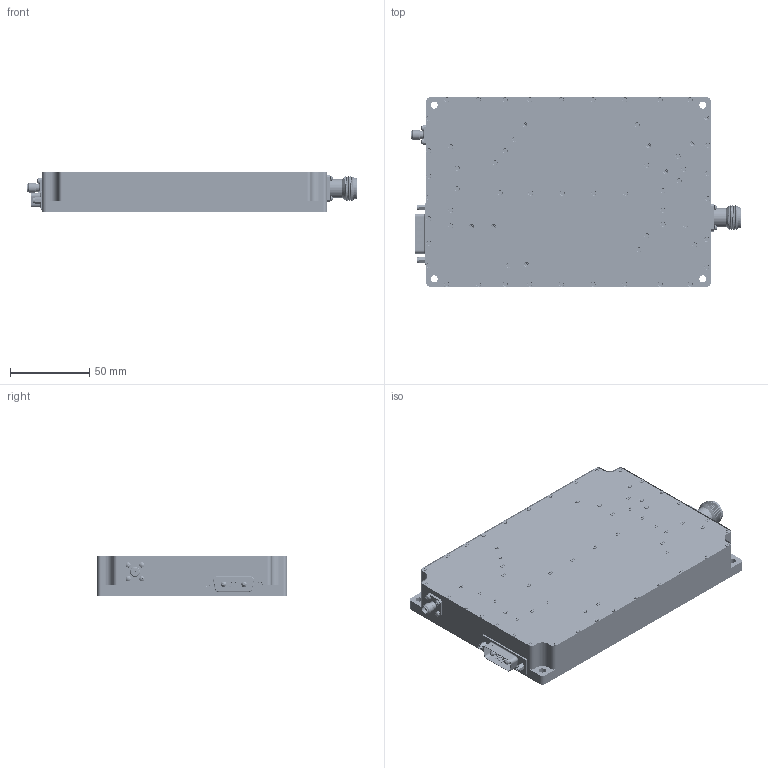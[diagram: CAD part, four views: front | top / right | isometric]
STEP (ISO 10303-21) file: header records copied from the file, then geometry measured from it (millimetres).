
FILE_DESCRIPTION (( 'STEP AP203' ), '1' );
FILE_NAME ('PA2060-100.STEP', '2026-09-10T12:18:22', ( 'Windows User' ), ( 'P R C' ), 'SwSTEP 2.0', 'SolidWorks 2013', '' );
FILE_SCHEMA (( 'CONFIG_CONTROL_DESIGN' ));
Length unit declared in the file: millimetre
Products named in the file (10): 2060-100_X2_4e3b4f53_X0__1; 郪磁蹟隊M2X8; SMA-_X2_5fae5e26_X0_4mm_X2_4ecb8d287a7f5899_X0__1; N-KFD_1; PA2060-100; 2060-100_X2_76d6677f_X0__1; 2060-100_X2_5e95677f_X0__1; m2蹟翐; 麥芛蹟隊M1.6X4; D-Sub Connector  5+2 Combo Plug Male Pins_1
Assembly tree (121 placements, depth 2):
  PA2060-100
    2060-100_X2_4e3b4f53_X0__1
    D-Sub Connector  5+2 Combo Plug Male Pins_1
    N-KFD_1
    SMA-_X2_5fae5e26_X0_4mm_X2_4ecb8d287a7f5899_X0__1
    2060-100_X2_5e95677f_X0__1
    2060-100_X2_76d6677f_X0__1
    郪磁蹟隊M2X8  x8
    麥芛蹟隊M1.6X4  x105
    m2蹟翐  x2
Bounding box: 208.38 x 120 x 25 mm (x, y, z)
Volume: 237589.9 mm3; surface area: 170389 mm2
Topology: 158 solids, 160 shells, 8400 faces, 22630 edges, 14573 vertices
Faces by surface type: cylinder 5164, plane 2131, cone 694, bspline 378, torus 18, sphere 15
Entity records: 71335 total; most frequent: CARTESIAN_POINT 25429, DIRECTION 9240, ORIENTED_EDGE 8308, EDGE_CURVE 4155, AXIS2_PLACEMENT_3D 3668, VERTEX_POINT 2629, EDGE_LOOP 2159, VECTOR 1904
